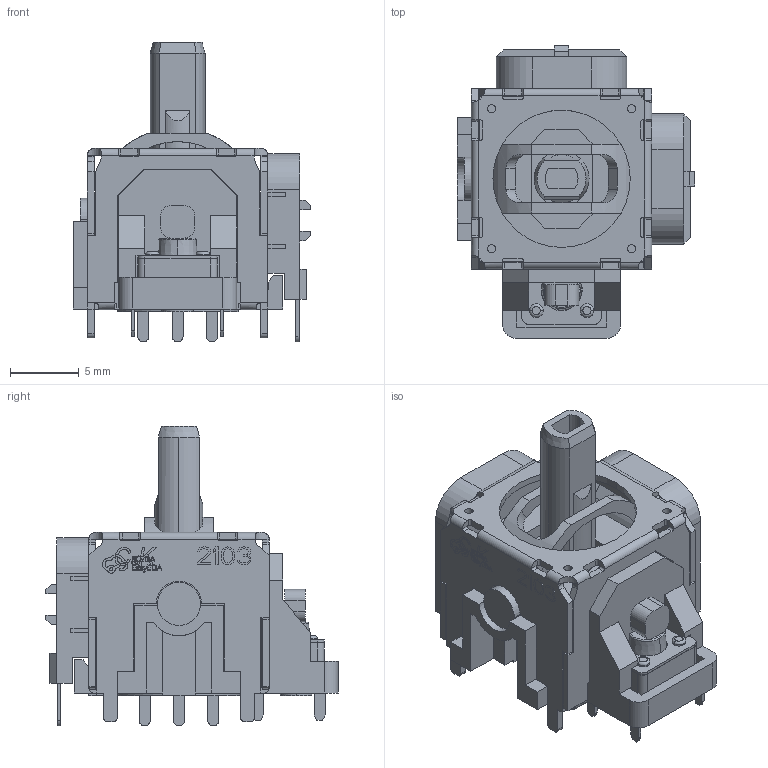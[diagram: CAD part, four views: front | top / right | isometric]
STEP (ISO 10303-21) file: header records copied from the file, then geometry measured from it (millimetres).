
FILE_DESCRIPTION (( 'STEP AP214' ), '1' );
FILE_NAME ('SW-TH_RKJXV1224005.step', '2022-07-26T17:23:00', ( '' ), ( '' ), 'SwSTEP 2.0', 'SolidWorks 2020', '' );
FILE_SCHEMA (( 'AUTOMOTIVE_DESIGN' ));
Length unit declared in the file: millimetre
Products named in the file (1): SW-TH_RKJXV1224005
Bounding box: 17.3 x 21.3 x 21.85 mm (x, y, z)
Volume: 2248.3 mm3; surface area: 3414 mm2
Topology: 18 solids, 18 shells, 1552 faces, 4373 edges, 2896 vertices
Faces by surface type: plane 1254, cylinder 167, bspline 118, torus 7, cone 6
Entity records: 68017 total; most frequent: CARTESIAN_POINT 11064, ORIENTED_EDGE 8746, DIRECTION 7326, EDGE_CURVE 4373, LINE 3734, VECTOR 3734, VERTEX_POINT 2896, AXIS2_PLACEMENT_3D 1796
